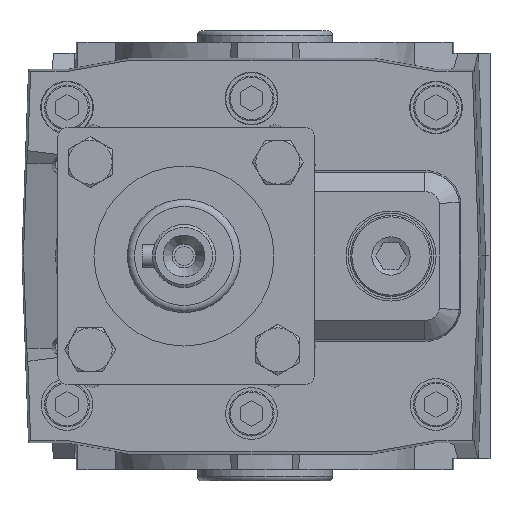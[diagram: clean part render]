
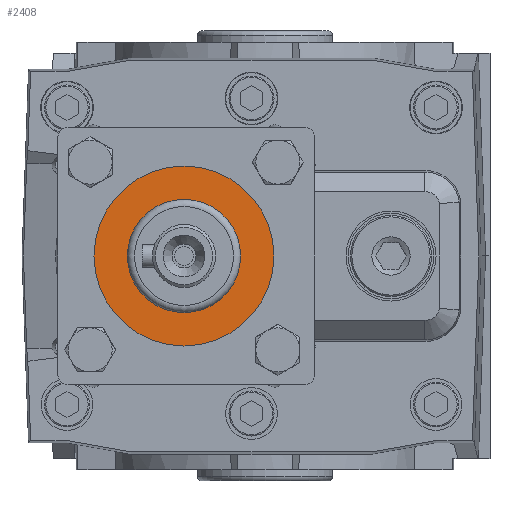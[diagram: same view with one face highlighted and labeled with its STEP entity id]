
A CAD part, left-side view. The second image highlights one B-rep face of the part: STEP entity #2408.
In plain terms, the highlighted planar face has unit normal (-1, 0, 0).
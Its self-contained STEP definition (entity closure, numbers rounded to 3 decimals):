
#2408 = ADVANCED_FACE( '', ( #5223, #5224 ), #5225, .F. );
#5223 = FACE_OUTER_BOUND( '', #9411, .T. );
#5224 = FACE_BOUND( '', #9412, .T. );
#5225 = PLANE( '', #9413 );
#9411 = EDGE_LOOP( '', ( #17236 ) );
#9412 = EDGE_LOOP( '', ( #17237 ) );
#9413 = AXIS2_PLACEMENT_3D( '', #17238, #17239, #17240 );
#17236 = ORIENTED_EDGE( '', *, *, #20995, .F. );
#17237 = ORIENTED_EDGE( '', *, *, #19627, .F. );
#17238 = CARTESIAN_POINT( '', ( -142.4, 18., 0. ) );
#17239 = DIRECTION( '', ( 1., 0., 0. ) );
#17240 = DIRECTION( '', ( 0., -1., 0. ) );
#19627 = EDGE_CURVE( '', #23035, #23035, #23036, .F. );
#20995 = EDGE_CURVE( '', #25234, #25234, #25235, .T. );
#23035 = VERTEX_POINT( '', #28230 );
#23036 = CIRCLE( '', #28231, 12.5 );
#25234 = VERTEX_POINT( '', #31951 );
#25235 = CIRCLE( '', #31952, 20. );
#28230 = CARTESIAN_POINT( '', ( -142.4, 5.5, 0. ) );
#28231 = AXIS2_PLACEMENT_3D( '', #35460, #35461, #35462 );
#31951 = CARTESIAN_POINT( '', ( -142.4, -2., 0. ) );
#31952 = AXIS2_PLACEMENT_3D( '', #36778, #36779, #36780 );
#35460 = CARTESIAN_POINT( '', ( -142.4, 18., 0. ) );
#35461 = DIRECTION( '', ( 1., 0., 0. ) );
#35462 = DIRECTION( '', ( 0., -1., 0. ) );
#36778 = CARTESIAN_POINT( '', ( -142.4, 18., 0. ) );
#36779 = DIRECTION( '', ( 1., 0., 0. ) );
#36780 = DIRECTION( '', ( 0., -1., 0. ) );
